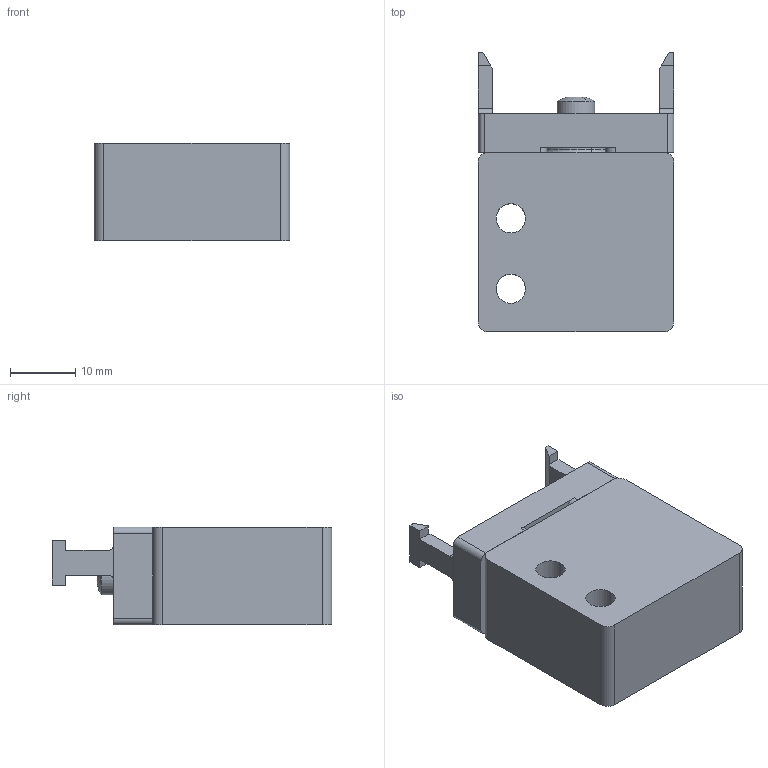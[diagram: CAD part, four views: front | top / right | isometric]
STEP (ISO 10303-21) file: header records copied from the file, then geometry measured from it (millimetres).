
FILE_DESCRIPTION (( 'STEP AP214' ), '1' );
FILE_NAME ('08_187_4.STEP', '2016-07-29T12:57:19', ( '' ), ( '' ), 'SwSTEP 2.0', 'SolidWorks 2016', '' );
FILE_SCHEMA (( 'AUTOMOTIVE_DESIGN' ));
Length unit declared in the file: millimetre
Products named in the file (1): 08_187_4
Bounding box: 30 x 42.9 x 15 mm (x, y, z)
Volume: 14235.9 mm3; surface area: 6314.8 mm2
Topology: 6 solids, 6 shells, 320 faces, 814 edges, 510 vertices
Faces by surface type: cone 116, plane 100, cylinder 88, torus 10, sphere 6
Entity records: 10013 total; most frequent: DIRECTION 1846, CARTESIAN_POINT 1739, ORIENTED_EDGE 1620, EDGE_CURVE 810, AXIS2_PLACEMENT_3D 745, VERTEX_POINT 510, CIRCLE 424, VECTOR 356
